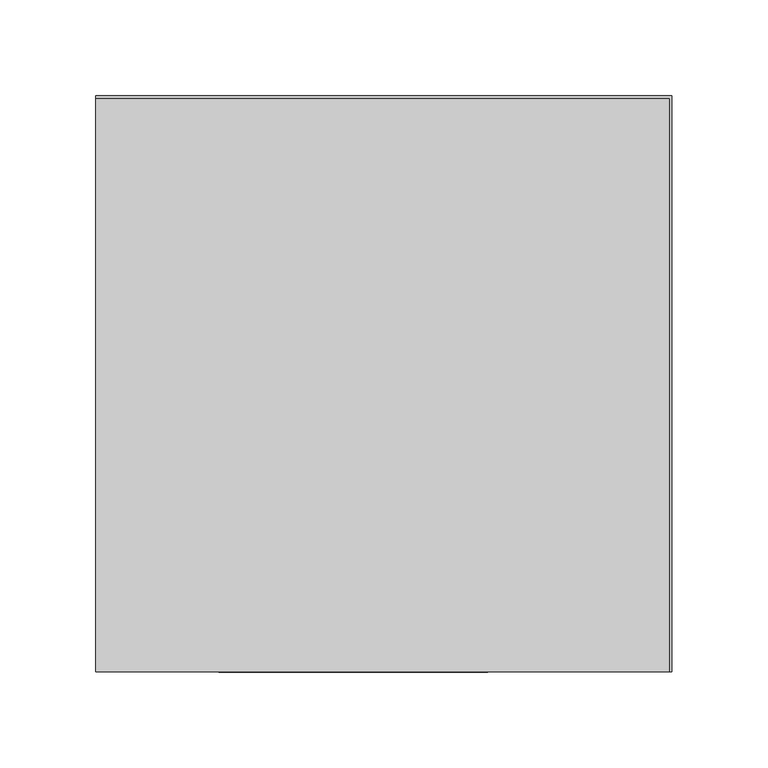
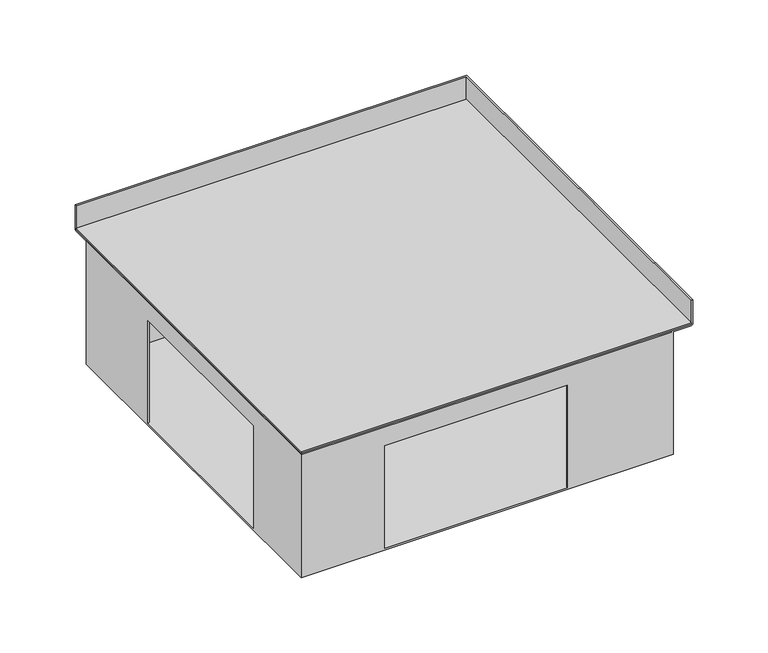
"""IFC4 building model written with IfcOpenShell, lengths in millimetres: proxy geometry, TECHNO_Угловой элемент_KVU : 300_120_90°."""

from ifc_helpers import new_model, si_unit, frame, origin, place, context, project, spatial, polyline, circle_curve, ellipse_curve, outline, extrude, source, transform, mapped, element, save
from ifc_brep_helpers import plane_surface, cylinder_surface, advanced_brep


def mechanical_equipment_a8ea22db(model_context):
    return source(origin(), model_context, "Body", "SolidModel", [
        extrude(outline(polyline([(0.0, 148.8), (298.8, 148.8), (298.8, -150.0), (0.0, -150.0), (0.0, 148.8)])), frame((0.0, 0.0, -19.3), z_axis=(0.0, 0.0, 1.0), x_axis=(1.0, 0.0, 0.0)), (0.0, 0.0, 1.0), 1.2),
        advanced_brep(
        [(284.0, -148.8, -118.8), (284.0, 134.0, -118.8), (1.2, 134.0, -118.8), (1.2, 54.0, -118.8), (0.0, 54.0, -118.8), (0.0, -86.0, -118.8), (1.2, -86.0, -118.8), (1.2, -148.8, -118.8), (64.0, -148.8, -118.8), (64.0, -150.0, -118.8), (204.0, -150.0, -118.8), (204.0, -148.8, -118.8), (0.0, 135.2, -120.0), (285.2, 135.2, -120.0), (285.2, -150.0, -120.0), (0.0, -150.0, -120.0), (0.0, 135.2, -20.5), (0.0, -150.0, -20.5), (0.0, 134.0, -20.5), (0.0, 135.2, -19.3), (0.0, 148.8, -19.3), (0.0, 148.8, 0.0), (0.0, 150.0, 0.0), (0.0, 150.0, -19.3), (0.0, 148.8, -20.5), (0.0, -86.0, -35.8), (0.0, 54.0, -35.8), (285.2, -150.0, -20.5), (298.8, -150.0, -20.5), (300.0, -150.0, -19.3), (300.0, -150.0, 0.0), (298.8, -150.0, 0.0), (298.8, -150.0, -19.3), (285.2, -150.0, -19.3), (284.0, -150.0, -20.5), (64.0, -150.0, -35.8), (204.0, -150.0, -35.8), (285.2, 135.2, -20.5), (1.2, 135.2, -19.3), (1.2, -148.8, -19.3), (285.2, -148.8, -19.3), (298.8, 148.8, -19.3), (285.2, -134.0, -19.3), (16.0, -134.0, -19.3), (16.0, 135.2, -19.3), (285.2, 135.2, -19.3), (16.0, -134.0, -20.5), (16.0, 134.0, -20.5), (284.0, -134.0, -20.5), (284.0, -148.8, -20.5), (1.2, -148.8, -20.5), (1.2, 134.0, -20.5), (1.2, -86.0, -35.8), (1.2, 54.0, -35.8), (204.0, -148.8, -35.8), (64.0, -148.8, -35.8), (300.0, 150.0, -19.3), (300.0, 150.0, 0.0), (298.8, 148.8, 0.0), (298.8, 148.8, -20.5), (284.0, 134.0, -20.5)],
        [
            (0, 1),
            (1, 2),
            (2, 3),
            (3, 4),
            (4, 5),
            (5, 6),
            (6, 7),
            (7, 8),
            (8, 9),
            (9, 10),
            (10, 11),
            (11, 0),
            (12, 13),
            (13, 14),
            (14, 15),
            (15, 12),
            (16, 12),
            (15, 17),
            (17, 18),
            (18, 19, circle_curve(frame((0.0, 135.2, -20.5), z_axis=(-1.0, 0.0, 0.0), x_axis=(0.0, -1.0, 0.0)), 1.2)),
            (19, 20),
            (20, 21),
            (21, 22),
            (22, 23),
            (23, 24, circle_curve(frame((0.0, 148.8, -19.3), z_axis=(-1.0, 0.0, 0.0), x_axis=(0.0, -1.0, 0.0)), 1.2)),
            (24, 16),
            (25, 5),
            (4, 26),
            (26, 25),
            (14, 27),
            (27, 28),
            (28, 29, circle_curve(frame((298.8, -150.0, -19.3), z_axis=(0.0, -1.0, 0.0), x_axis=(-1.0, 0.0, 0.0)), 1.2)),
            (29, 30),
            (30, 31),
            (31, 32),
            (32, 33),
            (33, 34, circle_curve(frame((285.2, -150.0, -20.5), z_axis=(0.0, -1.0, 0.0), x_axis=(-1.0, 0.0, 0.0)), 1.2)),
            (34, 17),
            (9, 35),
            (35, 36),
            (36, 10),
            (16, 37),
            (37, 13),
            (37, 27),
            (38, 39),
            (39, 40),
            (40, 33),
            (32, 41),
            (41, 20),
            (19, 38),
            (42, 43),
            (43, 44),
            (44, 45),
            (45, 42),
            (43, 46),
            (46, 47),
            (47, 44, circle_curve(frame((16.0, 135.2, -20.5), z_axis=(-1.0, 0.0, 0.0), x_axis=(0.0, -1.0, 0.0)), 1.2)),
            (42, 48, circle_curve(frame((285.2, -134.0, -20.5), z_axis=(0.0, -1.0, 0.0), x_axis=(-1.0, 0.0, 0.0)), 1.2)),
            (48, 46),
            (48, 49),
            (49, 50),
            (50, 51),
            (51, 47),
            (50, 7),
            (6, 52),
            (52, 53),
            (53, 3),
            (2, 51),
            (49, 0),
            (11, 54),
            (54, 55),
            (55, 8),
            (38, 18, ellipse_curve(frame((1.2, 135.2, -20.5), z_axis=(0.7071067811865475, -0.7071067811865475, 0.0), x_axis=(0.7071067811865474, 0.7071067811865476, 0.0)), 1.6970563, 1.2)),
            (17, 39, ellipse_curve(frame((1.2, -148.8, -20.5), z_axis=(-0.7071067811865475, 0.7071067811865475, 0.0), x_axis=(0.7071067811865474, 0.7071067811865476, 0.0)), 1.6970563, 1.2)),
            (34, 40, ellipse_curve(frame((285.2, -148.8, -20.5), z_axis=(-0.7071067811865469, 0.707106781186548, 0.0), x_axis=(-0.7071067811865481, -0.7071067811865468, 0.0)), 1.6970563, 1.2)),
            (29, 56),
            (56, 57),
            (57, 30),
            (57, 22),
            (21, 58),
            (58, 31),
            (58, 41),
            (24, 59),
            (59, 28),
            (59, 56, ellipse_curve(frame((298.8, 148.8, -19.3), z_axis=(0.7071067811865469, -0.707106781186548, 0.0), x_axis=(-0.7071067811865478, -0.707106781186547, 0.0)), 1.6970563, 1.2)),
            (56, 23),
            (45, 60, ellipse_curve(frame((285.2, 135.2, -20.5), z_axis=(0.7071067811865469, -0.707106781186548, 0.0), x_axis=(-0.7071067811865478, -0.707106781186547, 0.0)), 1.6970563, 1.2)),
            (60, 48),
            (60, 1),
            (47, 60),
            (25, 52),
            (53, 26),
            (55, 35),
            (54, 36),
        ],
        [
            plane_surface(frame((0.0, 134.0, -118.8), z_axis=(0.0, 0.0, 1.0), x_axis=(0.0, -1.0, 0.0))),
            plane_surface(frame((0.0, 134.0, -120.0), z_axis=(0.0, 0.0, -1.0), x_axis=(0.0, 1.0, 0.0))),
            plane_surface(frame((0.0, 134.0, -118.8), z_axis=(-1.0, 0.0, 0.0), x_axis=(0.0, 0.0, -1.0))),
            plane_surface(frame((0.0, -150.0, -118.8), z_axis=(0.0, -1.0, 0.0), x_axis=(0.0, 0.0, -1.0))),
            plane_surface(frame((0.0, 135.2, -120.0), z_axis=(0.0, 1.0, 0.0), x_axis=(0.0, 0.0, -1.0))),
            plane_surface(frame((285.2, -150.0, -120.0), z_axis=(1.0, 0.0, 0.0), x_axis=(0.0, 0.0, -1.0))),
            plane_surface(frame((1.2, 135.2, -19.3), z_axis=(0.0, 0.0, 1.0), x_axis=(0.0, -1.0, 0.0))),
            plane_surface(frame((16.0, 135.2, -19.3), z_axis=(1.0, 0.0, 0.0), x_axis=(0.0, -1.0, 0.0))),
            plane_surface(frame((16.0, -134.0, -19.3), z_axis=(0.0, 1.0, 0.0), x_axis=(1.0, 0.0, 0.0))),
            plane_surface(frame((16.0, 135.2, -20.5), z_axis=(0.0, 0.0, -1.0), x_axis=(0.0, -1.0, 0.0))),
            plane_surface(frame((1.2, 135.2, -20.5), z_axis=(1.0, 0.0, 0.0), x_axis=(0.0, -1.0, 0.0))),
            plane_surface(frame((1.2, -148.8, -20.5), z_axis=(0.0, 1.0, 0.0), x_axis=(1.0, 0.0, 0.0))),
            cylinder_surface(frame((1.2, 135.2, -20.5), z_axis=(0.0, 1.0, 0.0), x_axis=(-1.0, 0.0, 0.0)), 1.2),
            cylinder_surface(frame((0.0, -148.8, -20.5), z_axis=(-1.0, 0.0, 0.0), x_axis=(0.0, -1.0, 0.0)), 1.2),
            plane_surface(frame((300.0, -150.0, -19.3), z_axis=(1.0, 0.0, 0.0), x_axis=(0.0, 1.0, 0.0))),
            plane_surface(frame((300.0, -150.0, 0.0), z_axis=(0.0, 0.0, 1.0), x_axis=(0.0, 1.0, 0.0))),
            plane_surface(frame((298.8, -150.0, 0.0), z_axis=(-1.0, 0.0, 0.0), x_axis=(0.0, 1.0, 0.0))),
            plane_surface(frame((285.2, -150.0, -20.5), z_axis=(0.0, 0.0, -1.0), x_axis=(0.0, 1.0, 0.0))),
            cylinder_surface(frame((298.8, -150.0, -19.3), z_axis=(0.0, -1.0, 0.0), x_axis=(-1.0, 0.0, 0.0)), 1.2),
            plane_surface(frame((300.0, 150.0, -19.3), z_axis=(0.0, 1.0, 0.0), x_axis=(-1.0, 0.0, 0.0))),
            plane_surface(frame((298.8, 148.8, 0.0), z_axis=(0.0, -1.0, 0.0), x_axis=(-1.0, 0.0, 0.0))),
            cylinder_surface(frame((150.0, 148.8, -19.3), z_axis=(1.0, 0.0, 0.0), x_axis=(0.0, -1.0, 0.0)), 1.2),
            cylinder_surface(frame((285.2, -150.0, -20.5), z_axis=(0.0, -1.0, 0.0), x_axis=(-1.0, 0.0, 0.0)), 1.2),
            plane_surface(frame((284.0, -150.0, -20.5), z_axis=(-1.0, 0.0, 0.0), x_axis=(0.0, 1.0, 0.0))),
            cylinder_surface(frame((150.0, 135.2, -20.5), z_axis=(1.0, 0.0, 0.0), x_axis=(0.0, -1.0, 0.0)), 1.2),
            plane_surface(frame((284.0, 134.0, -20.5), z_axis=(0.0, -1.0, 0.0), x_axis=(-1.0, 0.0, 0.0))),
            plane_surface(frame((1.2, -86.0, -35.8), z_axis=(0.0, 1.0, 0.0), x_axis=(-1.0, 0.0, 0.0))),
            plane_surface(frame((1.2, 54.0, -118.8), z_axis=(0.0, -1.0, 0.0), x_axis=(-1.0, 0.0, 0.0))),
            plane_surface(frame((1.2, 54.0, -35.8), z_axis=(0.0, 0.0, -1.0), x_axis=(-1.0, 0.0, 0.0))),
            plane_surface(frame((64.0, -148.8, -118.8), z_axis=(1.0, 0.0, 0.0), x_axis=(0.0, -1.0, 0.0))),
            plane_surface(frame((64.0, -148.8, -35.8), z_axis=(0.0, 0.0, -1.0), x_axis=(0.0, -1.0, 0.0))),
            plane_surface(frame((204.0, -148.8, -35.8), z_axis=(-1.0, 0.0, 0.0), x_axis=(0.0, -1.0, 0.0))),
        ],
        [
            (0, [[1, 2, 3, 4, 5, 6, 7, 8, 9, 10, 11, 12]]),
            (1, [[13, 14, 15, 16]]),
            (2, [[17, -16, 18, 19, 20, 21, 22, 23, 24, 25, 26], [27, -5, 28, 29]]),
            (3, [[30, 31, 32, 33, 34, 35, 36, 37, 38, -18, -15], [39, 40, 41, -10]]),
            (4, [[-17, 42, 43, -13]]),
            (5, [[-30, -14, -43, 44]]),
            (6, [[45, 46, 47, -36, 48, 49, -21, 50], [51, 52, 53, 54]]),
            (7, [[-52, 55, 56, 57]]),
            (8, [[-51, 58, 59, -55]]),
            (9, [[-56, -59, 60, 61, 62, 63]]),
            (10, [[64, -7, 65, 66, 67, -3, 68, -62]]),
            (11, [[-64, -61, 69, -12, 70, 71, 72, -8]]),
            (12, [[-45, 73, -19, 74]]),
            (13, [[-46, -74, -38, 75]]),
            (14, [[-33, 76, 77, 78]]),
            (15, [[-34, -78, 79, -23, 80, 81]]),
            (16, [[-35, -81, 82, -48]]),
            (17, [[-31, -44, -42, -26, 83, 84]]),
            (18, [[-32, -84, 85, -76]]),
            (19, [[-77, 86, -24, -79]]),
            (20, [[-80, -22, -49, -82]]),
            (21, [[-83, -25, -86, -85]]),
            (22, [[-37, -47, -75]]),
            (22, [[87, 88, -58, -54]]),
            (23, [[89, -1, -69, -60, -88]]),
            (24, [[-20, -73, -50]]),
            (24, [[-87, -53, -57, 90]]),
            (25, [[-89, -90, -63, -68, -2]]),
            (26, [[-6, -27, 91, -65]]),
            (27, [[-4, -67, 92, -28]]),
            (28, [[-91, -29, -92, -66]]),
            (29, [[93, -39, -9, -72]]),
            (30, [[-93, -71, 94, -40]]),
            (31, [[-94, -70, -11, -41]]),
        ],
    ),
    ])


if __name__ == "__main__":
    model = new_model("IFC4")
    model_context = context("Model", 3, world=origin())
    ifc_project = project(units=[si_unit("LENGTHUNIT", "METRE", prefix="MILLI")], contexts=[model_context])
    site = spatial("IfcSite", under=ifc_project)
    building = spatial("IfcBuilding", under=site)
    placement = place(None, origin())
    mechanical_equipment_shape = mechanical_equipment_a8ea22db(model_context)
    element("IfcBuildingElementProxy", 1, Name="TECHNO_Угловой элемент_KVU : 300_120_90°", ObjectType="TECHNO_Угловой элемент_KVU : 300_120_90°", at=placement, inside=building, context=model_context, shape_type="MappedRepresentation", body=[
        mapped(mechanical_equipment_shape, transform((0.0, 0.0, 0.0), x_axis=(1.0, 0.0, 0.0), y_axis=(0.0, 1.0, 0.0), z_axis=(0.0, 0.0, 1.0))),
    ])
    save(model, "model.ifc")
